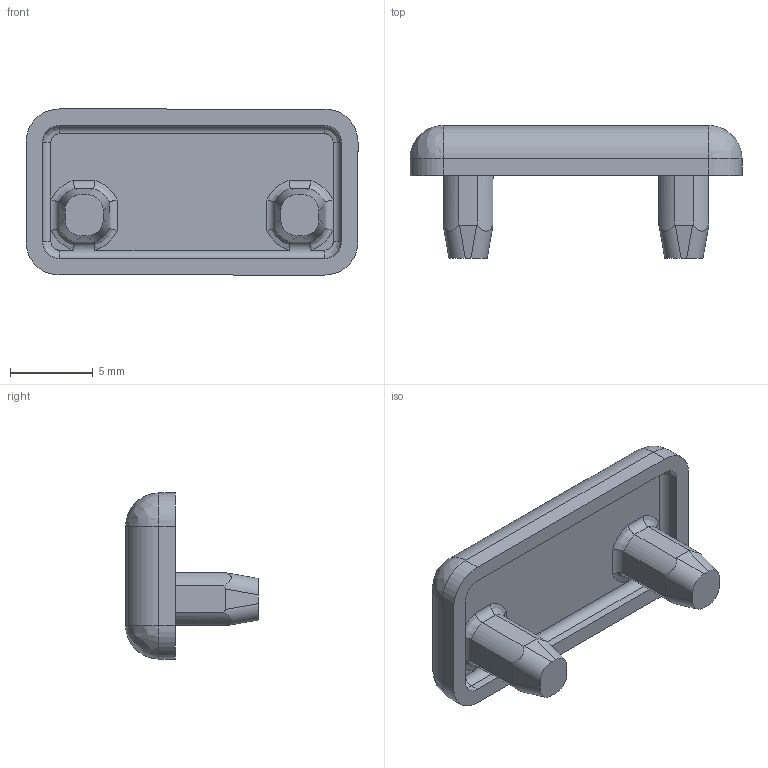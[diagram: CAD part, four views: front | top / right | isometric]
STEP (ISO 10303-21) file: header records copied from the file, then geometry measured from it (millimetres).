
FILE_DESCRIPTION (( 'STEP AP203' ), '1' );
FILE_NAME ('10014_ABD5.2010.STEP', '2018-05-18T07:08:25', ( '' ), ( '' ), 'SwSTEP 2.0', 'SolidWorks 2017', '' );
FILE_SCHEMA (( 'CONFIG_CONTROL_DESIGN' ));
Length unit declared in the file: millimetre
Products named in the file (1): 10014_ABD5.2010
Bounding box: 20 x 8 x 10 mm (x, y, z)
Volume: 499.2 mm3; surface area: 662.3 mm2
Topology: 1 solids, 1 shells, 84 faces, 209 edges, 124 vertices
Faces by surface type: cylinder 38, plane 30, bspline 16
Entity records: 3022 total; most frequent: CARTESIAN_POINT 1161, ORIENTED_EDGE 410, DIRECTION 323, EDGE_CURVE 205, VERTEX_POINT 124, AXIS2_PLACEMENT_3D 109, VECTOR 105, LINE 105
